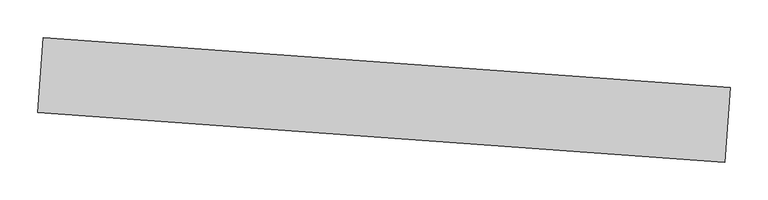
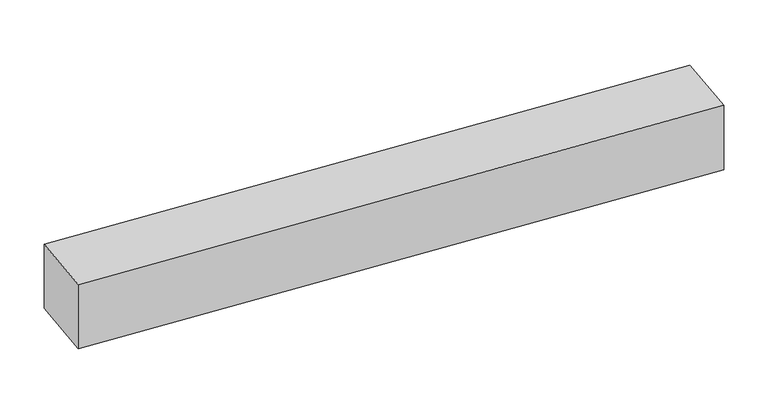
"""IFC4 building model written with IfcOpenShell, lengths in millimetres: proxy geometry, Брус 2 : Брус 2."""

from ifc_helpers import new_model, si_unit, frame, origin, place, context, project, spatial, polyline, outline, extrude, source, transform, mapped, element, save


def generic_models_d41d94b2(model_context):
    return source(origin(), model_context, "Body", "SweptSolid", [
        extrude(outline(polyline([(5541.6817727, 19454.3802713), (4627.7805388, 19520.9331722), (4635.0435916, 19620.6690637), (5548.9448255, 19554.1161628), (5541.6817727, 19454.3802713)])), frame((0.0, 0.0, 640.0), z_axis=(0.0, 0.0, 1.0), x_axis=(1.0, 0.0, 0.0)), (0.0, 0.0, 1.0), 100.0),
    ])


if __name__ == "__main__":
    model = new_model("IFC4")
    model_context = context("Model", 3, world=origin())
    ifc_project = project(units=[si_unit("LENGTHUNIT", "METRE", prefix="MILLI")], contexts=[model_context])
    site = spatial("IfcSite", under=ifc_project)
    building = spatial("IfcBuilding", under=site)
    placement = place(None, origin())
    generic_models_shape = generic_models_d41d94b2(model_context)
    element("IfcBuildingElementProxy", 1, Name="Брус 2 : Брус 2", ObjectType="Брус 2 : Брус 2", at=placement, inside=building, context=model_context, shape_type="MappedRepresentation", body=[
        mapped(generic_models_shape, transform((0.0, 0.0, 0.0), x_axis=(1.0, 0.0, 0.0), y_axis=(0.0, 1.0, 0.0), z_axis=(0.0, 0.0, 1.0))),
    ])
    save(model, "model.ifc")
